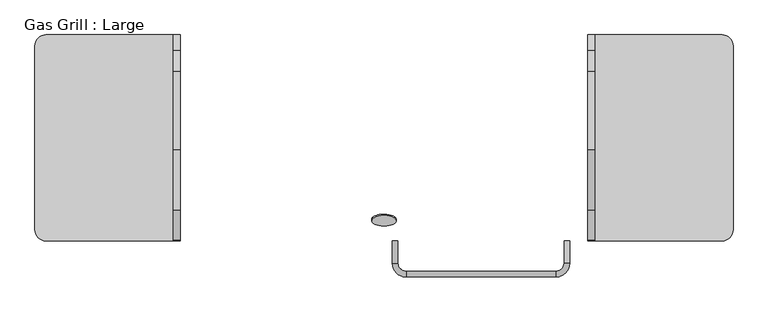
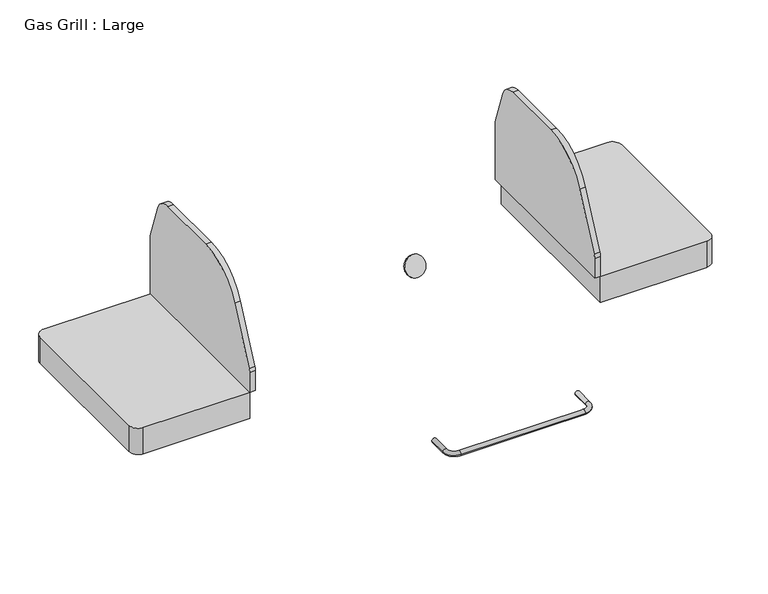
"""IFC4 building model written with IfcOpenShell, lengths in millimetres: proxy geometry, Gas Grill : Large."""

from ifc_helpers import new_model, si_unit, point, frame, frame_2d, origin, place, context, project, spatial, polyline, circle_curve, ellipse_curve, trimmed, segment, composite_curve, outline, extrude, source, transform, mapped, element, save
from ifc_brep_helpers import plane_surface, cylinder_surface, revolved_surface, advanced_brep


def gas_grill_large_a40fce51(model_context):
    return source(origin(), model_context, "Body", "SolidModel", [
        advanced_brep(
        [(19.05, -231.775, 546.1), (31.75, -231.775, 546.1), (425.45, -231.775, 546.1), (412.75, -231.775, 546.1), (19.05, -282.575, 546.1), (31.75, -282.575, 546.1), (50.8, -301.625, 546.1), (50.8, -314.325, 546.1), (393.7, -314.325, 546.1), (393.7, -301.625, 546.1), (412.75, -282.575, 546.1), (425.45, -282.575, 546.1)],
        [
            (0, 1, circle_curve(frame((25.4, -231.775, 546.1), z_axis=(0.0, 1.0, 0.0), x_axis=(1.0, 0.0, 0.0)), 6.35)),
            (1, 0, circle_curve(frame((25.4, -231.775, 546.1), z_axis=(0.0, 1.0, 0.0), x_axis=(1.0, 0.0, 0.0)), 6.35)),
            (2, 3, circle_curve(frame((419.1, -231.775, 546.1), z_axis=(0.0, 1.0, 0.0), x_axis=(-1.0, 0.0, 0.0)), 6.35)),
            (3, 2, circle_curve(frame((419.1, -231.775, 546.1), z_axis=(0.0, 1.0, 0.0), x_axis=(-1.0, 0.0, 0.0)), 6.35)),
            (0, 4),
            (4, 5, circle_curve(frame((25.4, -282.575, 546.1), z_axis=(0.0, 1.0, 0.0), x_axis=(1.0, 0.0, 0.0)), 6.35)),
            (5, 1),
            (5, 4, circle_curve(frame((25.4, -282.575, 546.1), z_axis=(0.0, 1.0, 0.0), x_axis=(1.0, 0.0, 0.0)), 6.35)),
            (6, 5, circle_curve(frame((50.8, -282.575, 546.1), z_axis=(0.0, 0.0, -1.0), x_axis=(-1.0, 0.0, 0.0)), 19.05)),
            (4, 7, circle_curve(frame((50.8, -282.575, 546.1), z_axis=(0.0, 0.0, 1.0), x_axis=(-1.0, 0.0, 0.0)), 31.75)),
            (7, 6, circle_curve(frame((50.8, -307.975, 546.1), z_axis=(-1.0, 0.0, 0.0), x_axis=(0.0, 1.0, 0.0)), 6.35)),
            (6, 7, circle_curve(frame((50.8, -307.975, 546.1), z_axis=(-1.0, 0.0, 0.0), x_axis=(0.0, 1.0, 0.0)), 6.35)),
            (7, 8),
            (8, 9, circle_curve(frame((393.7, -307.975, 546.1), z_axis=(-1.0, 0.0, 0.0), x_axis=(0.0, 1.0, 0.0)), 6.35)),
            (9, 6),
            (9, 8, circle_curve(frame((393.7, -307.975, 546.1), z_axis=(-1.0, 0.0, 0.0), x_axis=(0.0, 1.0, 0.0)), 6.35)),
            (10, 9, circle_curve(frame((393.7, -282.575, 546.1), z_axis=(0.0, 0.0, -1.0), x_axis=(0.0, -1.0, 0.0)), 19.05)),
            (8, 11, circle_curve(frame((393.7, -282.575, 546.1), z_axis=(0.0, 0.0, 1.0), x_axis=(0.0, -1.0, 0.0)), 31.75)),
            (11, 10, circle_curve(frame((419.1, -282.575, 546.1), z_axis=(0.0, -1.0, 0.0), x_axis=(-1.0, 0.0, 0.0)), 6.35)),
            (10, 11, circle_curve(frame((419.1, -282.575, 546.1), z_axis=(0.0, -1.0, 0.0), x_axis=(-1.0, 0.0, 0.0)), 6.35)),
            (11, 2),
            (3, 10),
        ],
        [
            plane_surface(frame((25.4, -231.775, 546.1), z_axis=(0.0, 1.0, 0.0), x_axis=(0.0, 0.0, 1.0))),
            plane_surface(frame((419.1, -231.775, 546.1), z_axis=(0.0, 1.0, 0.0), x_axis=(0.0, 0.0, 1.0))),
            cylinder_surface(frame((25.4, -231.775, 546.1), z_axis=(0.0, 1.0, 0.0), x_axis=(1.0, 0.0, 0.0)), 6.35),
            revolved_surface(trimmed(ellipse_curve(frame((25.4, -282.575, 546.1), z_axis=(0.0, 1.0, 0.0), x_axis=(1.0, 0.0, 0.0)), 6.35, 6.35), [point((19.05, -282.575, 546.1))], [point((31.75, -282.575, 546.1))], True, "CARTESIAN"), (50.8, -282.575, 546.1), (0.0, 0.0, 1.0)),
            revolved_surface(trimmed(ellipse_curve(frame((25.4, -282.575, 546.1), z_axis=(0.0, 1.0, 0.0), x_axis=(1.0, 0.0, 0.0)), 6.35, 6.35), [point((31.75, -282.575, 546.1))], [point((19.05, -282.575, 546.1))], True, "CARTESIAN"), (50.8, -282.575, 546.1), (0.0, 0.0, 1.0)),
            cylinder_surface(frame((50.8, -307.975, 546.1), z_axis=(-1.0, 0.0, 0.0), x_axis=(0.0, 1.0, 0.0)), 6.35),
            revolved_surface(trimmed(ellipse_curve(frame((393.7, -307.975, 546.1), z_axis=(-1.0, 0.0, 0.0), x_axis=(0.0, 1.0, 0.0)), 6.35, 6.35), [point((393.7, -314.325, 546.1))], [point((393.7, -301.625, 546.1))], True, "CARTESIAN"), (393.7, -282.575, 546.1), (0.0, 0.0, 1.0)),
            revolved_surface(trimmed(ellipse_curve(frame((393.7, -307.975, 546.1), z_axis=(-1.0, 0.0, 0.0), x_axis=(0.0, 1.0, 0.0)), 6.35, 6.35), [point((393.7, -301.625, 546.1))], [point((393.7, -314.325, 546.1))], True, "CARTESIAN"), (393.7, -282.575, 546.1), (0.0, 0.0, 1.0)),
            cylinder_surface(frame((419.1, -282.575, 546.1), z_axis=(0.0, -1.0, 0.0), x_axis=(-1.0, 0.0, 0.0)), 6.35),
        ],
        [
            (0, [[1, 2]]),
            (1, [[3, 4]]),
            (2, [[-1, 5, 6, 7]]),
            (2, [[-2, -7, 8, -5]]),
            (3, [[9, -6, 10, 11]]),
            (4, [[-10, -8, -9, 12]]),
            (5, [[-11, 13, 14, 15]]),
            (5, [[-12, -15, 16, -13]]),
            (6, [[17, -14, 18, 19]]),
            (7, [[-18, -16, -17, 20]]),
            (8, [[-19, 21, -4, 22]]),
            (8, [[-20, -22, -3, -21]]),
        ],
    ),
        extrude(outline(composite_curve([segment(polyline([(-482.6, 241.3), (-482.6, -231.775), (-774.7, -231.775)]), True, "CONTINUOUS"), segment(trimmed(circle_curve(frame_2d((-774.7, -206.375)), 25.4), [point((-774.7, -231.775))], [point((-800.1, -206.375))], False, "CARTESIAN"), True, "CONTINUOUS"), segment(polyline([(-800.1, -206.375), (-800.1, 215.9)]), True, "CONTINUOUS"), segment(trimmed(circle_curve(frame_2d((-774.7, 215.9)), 25.4), [point((-800.1, 215.9))], [point((-774.7, 241.3))], False, "CARTESIAN"), True, "CONTINUOUS"), segment(polyline([(-774.7, 241.3), (-482.6, 241.3)]), True, "CONTINUOUS")], self_intersect=False)), frame((0.0, 0.0, 787.4), z_axis=(0.0, 0.0, 1.0), x_axis=(1.0, 0.0, 0.0)), (0.0, 0.0, 1.0), 76.2),
        extrude(outline(composite_curve([segment(polyline([(774.7, -231.775), (482.6, -231.775), (482.6, 241.3), (774.7, 241.3)]), True, "CONTINUOUS"), segment(trimmed(circle_curve(frame_2d((774.7, 215.9)), 25.4), [point((774.7, 241.3))], [point((800.1, 215.9))], False, "CARTESIAN"), True, "CONTINUOUS"), segment(polyline([(800.1, 215.9), (800.1, -206.375)]), True, "CONTINUOUS"), segment(trimmed(circle_curve(frame_2d((774.7, -206.375)), 25.4), [point((800.1, -206.375))], [point((774.7, -231.775))], False, "CARTESIAN"), True, "CONTINUOUS")], self_intersect=False)), frame((0.0, 0.0, 787.4), z_axis=(0.0, 0.0, 1.0), x_axis=(1.0, 0.0, 0.0)), (0.0, 0.0, 1.0), 76.2),
        extrude(outline(composite_curve([segment(polyline([(241.3, 863.6), (-231.775, 863.6), (-231.775, 921.4689556)]), True, "CONTINUOUS"), segment(trimmed(circle_curve(frame_2d((-206.375, 921.4689556)), 25.4), [point((-231.775, 921.4689556))], [point((-229.3952178, 932.2034594))], False, "CARTESIAN"), True, "CONTINUOUS"), segment(polyline([(-229.3952178, 932.2034594), (-160.2867611, 1080.4070231)]), True, "CONTINUOUS"), segment(trimmed(circle_curve(frame_2d((-22.1654543, 1016.0)), 152.4), [point((-160.2867611, 1080.4070231))], [point((-22.1654543, 1168.4))], False, "CARTESIAN"), True, "CONTINUOUS"), segment(polyline([(-22.1654543, 1168.4), (158.4543579, 1168.4)]), True, "CONTINUOUS"), segment(trimmed(circle_curve(frame_2d((158.4543579, 1117.6)), 50.8), [point((158.4543579, 1168.4))], [point((206.4867016, 1134.1388622))], False, "CARTESIAN"), True, "CONTINUOUS"), segment(polyline([(206.4867016, 1134.1388622), (241.3, 1033.0337022), (241.3, 863.6)]), True, "CONTINUOUS")], self_intersect=False)), frame((-482.6, 0.0, 0.0), z_axis=(1.0, 0.0, 0.0), x_axis=(0.0, 1.0, 0.0)), (0.0, 0.0, 1.0), 15.875),
        extrude(outline(composite_curve([segment(polyline([(241.3, 863.6), (-231.775, 863.6), (-231.775, 921.4689556)]), True, "CONTINUOUS"), segment(trimmed(circle_curve(frame_2d((-206.375, 921.4689556)), 25.4), [point((-231.775, 921.4689556))], [point((-229.3952178, 932.2034594))], False, "CARTESIAN"), True, "CONTINUOUS"), segment(polyline([(-229.3952178, 932.2034594), (-160.2867611, 1080.4070231)]), True, "CONTINUOUS"), segment(trimmed(circle_curve(frame_2d((-22.1654543, 1016.0)), 152.4), [point((-160.2867611, 1080.4070231))], [point((-22.1654543, 1168.4))], False, "CARTESIAN"), True, "CONTINUOUS"), segment(polyline([(-22.1654543, 1168.4), (158.4543579, 1168.4)]), True, "CONTINUOUS"), segment(trimmed(circle_curve(frame_2d((158.4543579, 1117.6)), 50.8), [point((158.4543579, 1168.4))], [point((206.4867016, 1134.1388622))], False, "CARTESIAN"), True, "CONTINUOUS"), segment(polyline([(206.4867016, 1134.1388622), (241.3, 1033.0337022), (241.3, 863.6)]), True, "CONTINUOUS")], self_intersect=False)), frame((466.725, 0.0, 0.0), z_axis=(1.0, 0.0, 0.0), x_axis=(0.0, 1.0, 0.0)), (0.0, 0.0, 1.0), 15.875),
        extrude(outline(composite_curve([segment(trimmed(circle_curve(frame_2d((0.0, -28.5750001)), 28.575), [point((0.0, -57.15))], [point((0.0, 0.0))], False, "CARTESIAN"), True, "CONTINUOUS"), segment(trimmed(circle_curve(frame_2d((0.0, -28.5750001)), 28.575), [point((0.0, 0.0))], [point((0.0, -57.15))], False, "CARTESIAN"), True, "CONTINUOUS")], self_intersect=False)), frame((0.0, -170.4235086, 1058.668698), z_axis=(0.0, -0.9063077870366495, 0.42261826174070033), x_axis=(1.0, 0.0, 0.0)), (0.0, 0.0, 1.0), 3.302),
    ])


if __name__ == "__main__":
    model = new_model("IFC4")
    model_context = context("Model", 3, world=origin())
    ifc_project = project(units=[si_unit("LENGTHUNIT", "METRE", prefix="MILLI")], contexts=[model_context])
    site = spatial("IfcSite", under=ifc_project)
    building = spatial("IfcBuilding", under=site)
    placement = place(None, origin())
    gas_grill_large_shape = gas_grill_large_a40fce51(model_context)
    element("IfcBuildingElementProxy", 1, Name="Gas Grill : Large", ObjectType="Gas Grill : Large", at=placement, inside=building, context=model_context, shape_type="MappedRepresentation", body=[
        mapped(gas_grill_large_shape, transform((0.0, 0.0, 0.0), x_axis=(1.0, 0.0, 0.0), y_axis=(0.0, 1.0, 0.0), z_axis=(0.0, 0.0, 1.0))),
    ])
    save(model, "model.ifc")
